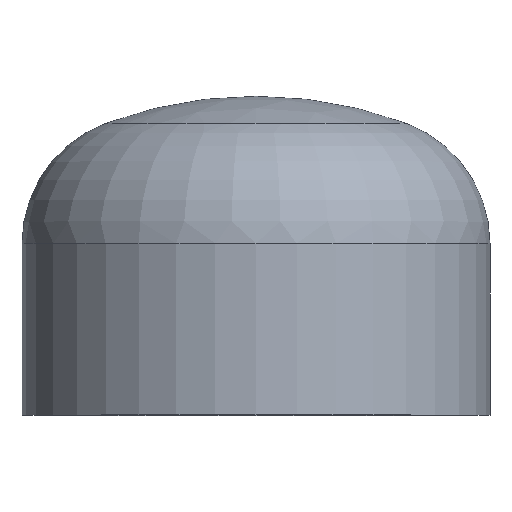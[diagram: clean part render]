
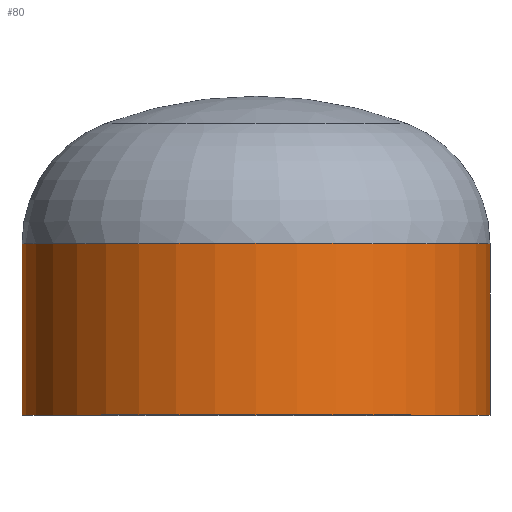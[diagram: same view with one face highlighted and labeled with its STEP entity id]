
A CAD part, top view. The second image highlights one B-rep face of the part: STEP entity #80.
In plain terms, the highlighted cylindrical face has radius 136.5 mm (diameter 273 mm), a partial arc.
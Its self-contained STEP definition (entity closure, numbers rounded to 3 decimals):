
#37 = AXIS2_PLACEMENT_3D ( 'NONE', #324, #310, #311 ) ;
#44 = ORIENTED_EDGE ( 'NONE', *, *, #57, .F. ) ;
#46 = VERTEX_POINT ( 'NONE', #405 ) ;
#51 = AXIS2_PLACEMENT_3D ( 'NONE', #332, #330, #329 ) ;
#53 = AXIS2_PLACEMENT_3D ( 'NONE', #242, #238, #336 ) ;
#57 = EDGE_CURVE ( 'NONE', #46, #241, #111, .T. ) ;
#58 = VERTEX_POINT ( 'NONE', #253 ) ;
#59 = EDGE_CURVE ( 'NONE', #241, #58, #401, .T. ) ;
#60 = EDGE_CURVE ( 'NONE', #196, #58, #270, .T. ) ;
#61 = EDGE_CURVE ( 'NONE', #46, #196, #334, .T. ) ;
#80 = ADVANCED_FACE ( 'NONE', ( #386 ), #173, .T. ) ;
#99 = VECTOR ( 'NONE', #237, 1000. ) ;
#111 = LINE ( 'NONE', #367, #215 ) ;
#145 = ORIENTED_EDGE ( 'NONE', *, *, #59, .F. ) ;
#173 = CYLINDRICAL_SURFACE ( 'NONE', #37, 136.5 ) ;
#186 = CARTESIAN_POINT ( 'NONE',  ( -136.5, 100., 0. ) ) ;
#196 = VERTEX_POINT ( 'NONE', #186 ) ;
#215 = VECTOR ( 'NONE', #249, 1000. ) ;
#230 = EDGE_LOOP ( 'NONE', ( #356, #406, #145, #44 ) ) ;
#237 = DIRECTION ( 'NONE',  ( 0., -1., 0. ) ) ;
#238 = DIRECTION ( 'NONE',  ( 0., -1., 0. ) ) ;
#241 = VERTEX_POINT ( 'NONE', #411 ) ;
#242 = CARTESIAN_POINT ( 'NONE',  ( 0., 0., 0. ) ) ;
#243 = CARTESIAN_POINT ( 'NONE',  ( -136.5, 0., 0. ) ) ;
#249 = DIRECTION ( 'NONE',  ( 0., -1., 0. ) ) ;
#253 = CARTESIAN_POINT ( 'NONE',  ( -136.5, 0., 0. ) ) ;
#270 = LINE ( 'NONE', #243, #99 ) ;
#310 = DIRECTION ( 'NONE',  ( 0., -1., 0. ) ) ;
#311 = DIRECTION ( 'NONE',  ( 1., 0., 0. ) ) ;
#324 = CARTESIAN_POINT ( 'NONE',  ( 0., 0., 0. ) ) ;
#329 = DIRECTION ( 'NONE',  ( 1., 0., 0. ) ) ;
#330 = DIRECTION ( 'NONE',  ( 0., -1., 0. ) ) ;
#332 = CARTESIAN_POINT ( 'NONE',  ( 0., 100., 0. ) ) ;
#334 = CIRCLE ( 'NONE', #51, 136.5 ) ;
#336 = DIRECTION ( 'NONE',  ( 1., 0., 0. ) ) ;
#356 = ORIENTED_EDGE ( 'NONE', *, *, #61, .T. ) ;
#367 = CARTESIAN_POINT ( 'NONE',  ( 136.5, 0., 0. ) ) ;
#386 = FACE_OUTER_BOUND ( 'NONE', #230, .T. ) ;
#401 = CIRCLE ( 'NONE', #53, 136.5 ) ;
#405 = CARTESIAN_POINT ( 'NONE',  ( 136.5, 100., 0. ) ) ;
#406 = ORIENTED_EDGE ( 'NONE', *, *, #60, .T. ) ;
#411 = CARTESIAN_POINT ( 'NONE',  ( 136.5, 0., 0. ) ) ;
